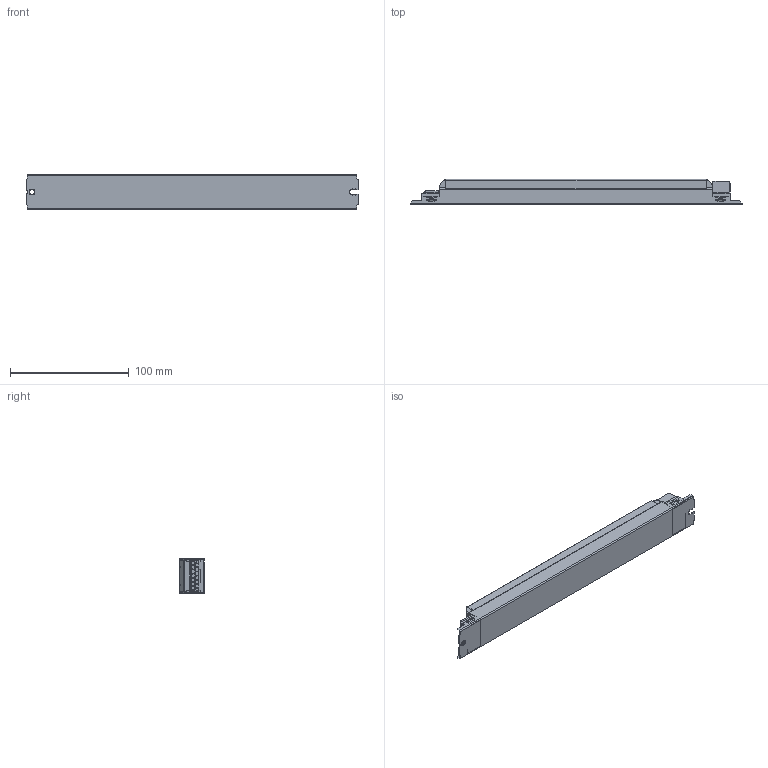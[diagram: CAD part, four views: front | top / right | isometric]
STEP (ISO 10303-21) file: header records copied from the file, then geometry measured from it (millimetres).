
FILE_DESCRIPTION (( 'STEP AP214' ), '1' );
FILE_NAME ('4187805swm000.step', '2020-01-31T05:35:26', ( 'OSRAM' ), ( 'OSRAM' ), 'SwSTEP 2.0', 'SolidWorks 2017', '' );
FILE_SCHEMA (( 'AUTOMOTIVE_DESIGN' ));
Length unit declared in the file: millimetre
Products named in the file (1): 4187805swm000
Bounding box: 279 x 21 x 30 mm (x, y, z)
Volume: 148197.3 mm3; surface area: 33054.7 mm2
Topology: 1 solids, 1 shells, 689 faces, 1898 edges, 1214 vertices
Faces by surface type: plane 426, cylinder 231, bspline 20, cone 8, sphere 4
Entity records: 29867 total; most frequent: CARTESIAN_POINT 5019, ORIENTED_EDGE 3788, DIRECTION 3388, EDGE_CURVE 1894, VECTOR 1284, LINE 1284, VERTEX_POINT 1214, AXIS2_PLACEMENT_3D 1052
